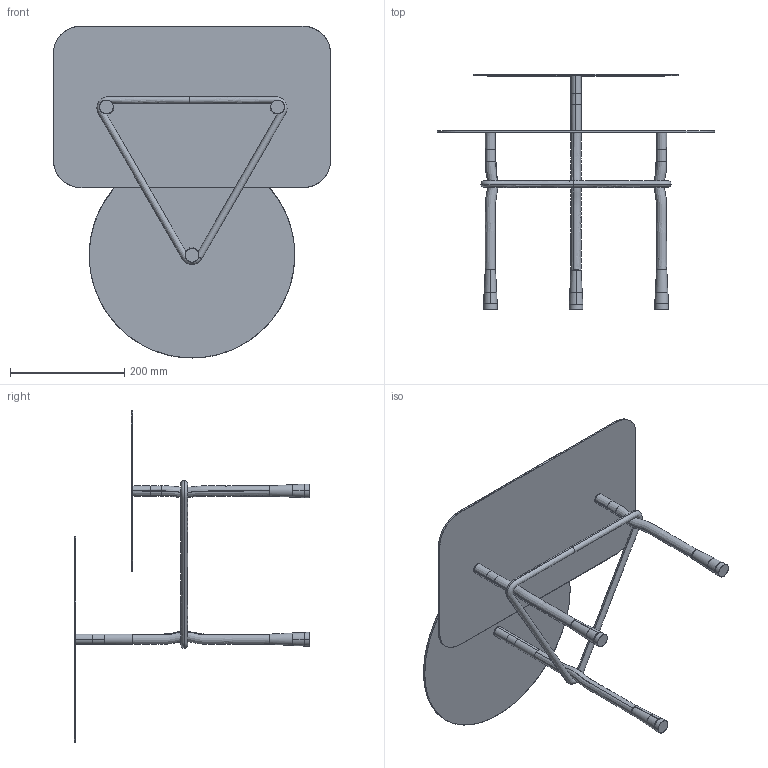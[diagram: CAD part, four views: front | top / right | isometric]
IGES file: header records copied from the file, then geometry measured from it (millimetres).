
Start section: SolidWorks IGES file using NURBS representation for surfaces
Global section: file name: D:\Recover\PRODUCTOS\28-TIERS\04-MODELADOS (PLANOS)\IGES\composicionA.IGS; native system: SolidWorks 2009; preprocessor: SolidWorks 2009; author: RUBEN; date: 110510.095434; units: millimetre
Bounding box: 485.37 x 413 x 581.57 mm (x, y, z)
Surface area: 609786.8 mm2 (no closed solid volume)
Topology: 0 solids, 0 shells, 83 faces, 1816 edges, 1816 vertices
Faces by surface type: bspline 83
